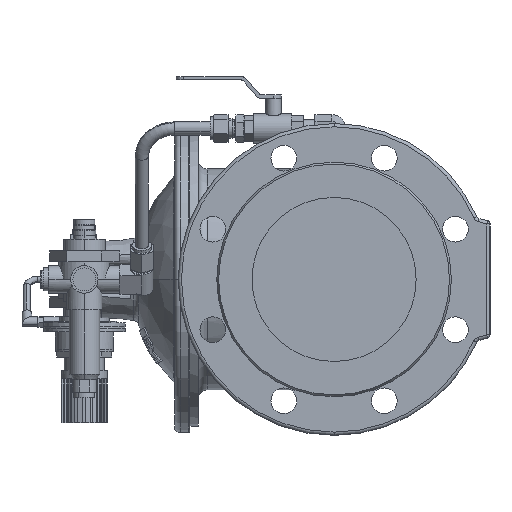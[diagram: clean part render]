
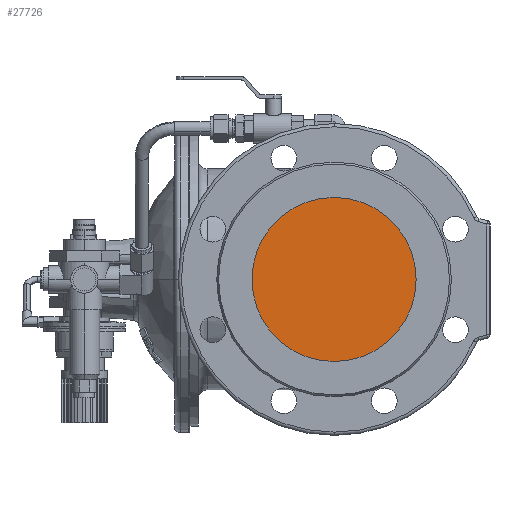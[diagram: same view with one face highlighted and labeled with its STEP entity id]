
A CAD part, left-side view. The second image highlights one B-rep face of the part: STEP entity #27726.
In plain terms, the highlighted planar face has unit normal (-1, 0, 0).
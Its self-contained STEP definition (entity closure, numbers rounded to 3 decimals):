
#1926 = EDGE_LOOP ( 'NONE', ( #36441, #9709 ) ) ;
#3626 = CIRCLE ( 'NONE', #21339, 75. ) ;
#5321 = AXIS2_PLACEMENT_3D ( 'NONE', #9899, #12688, #23974 ) ;
#8641 = CARTESIAN_POINT ( 'NONE',  ( -217., 75., 0. ) ) ;
#8703 = DIRECTION ( 'NONE',  ( -1., 0., 0. ) ) ;
#9709 = ORIENTED_EDGE ( 'NONE', *, *, #34393, .T. ) ;
#9899 = CARTESIAN_POINT ( 'NONE',  ( -217., 0., 0. ) ) ;
#11499 = CARTESIAN_POINT ( 'NONE',  ( -217., 0., 0. ) ) ;
#12688 = DIRECTION ( 'NONE',  ( -1., 0., 0. ) ) ;
#15817 = FACE_OUTER_BOUND ( 'NONE', #1926, .T. ) ;
#19990 = DIRECTION ( 'NONE',  ( 0., 0., 1. ) ) ;
#21339 = AXIS2_PLACEMENT_3D ( 'NONE', #11499, #8703, #19990 ) ;
#22664 = CARTESIAN_POINT ( 'NONE',  ( -217., 0., 0. ) ) ;
#22771 = EDGE_CURVE ( 'Defeatured_0_896+Defeatured_0_897+Defeatured_0_897+Defeatured_0_897', #24981, #34545, #29294, .T. ) ;
#23974 = DIRECTION ( 'NONE',  ( 0., 0., 1. ) ) ;
#24981 = VERTEX_POINT ( 'NONE', #8641 ) ;
#27726 = ADVANCED_FACE ( 'Defeatured_0_896', ( #15817 ), #33227, .T. ) ;
#29294 = CIRCLE ( 'NONE', #36422, 75. ) ;
#31827 = CARTESIAN_POINT ( 'NONE',  ( -217., -75., 0. ) ) ;
#33227 = PLANE ( 'NONE',  #5321 ) ;
#33972 = DIRECTION ( 'NONE',  ( 0., 0., 1. ) ) ;
#34393 = EDGE_CURVE ( 'Defeatured_0_896+Defeatured_0_897+Defeatured_0_897+Defeatured_0_897', #34545, #24981, #3626, .T. ) ;
#34545 = VERTEX_POINT ( 'NONE', #31827 ) ;
#36382 = DIRECTION ( 'NONE',  ( -1., 0., 0. ) ) ;
#36422 = AXIS2_PLACEMENT_3D ( 'NONE', #22664, #36382, #33972 ) ;
#36441 = ORIENTED_EDGE ( 'NONE', *, *, #22771, .T. ) ;
